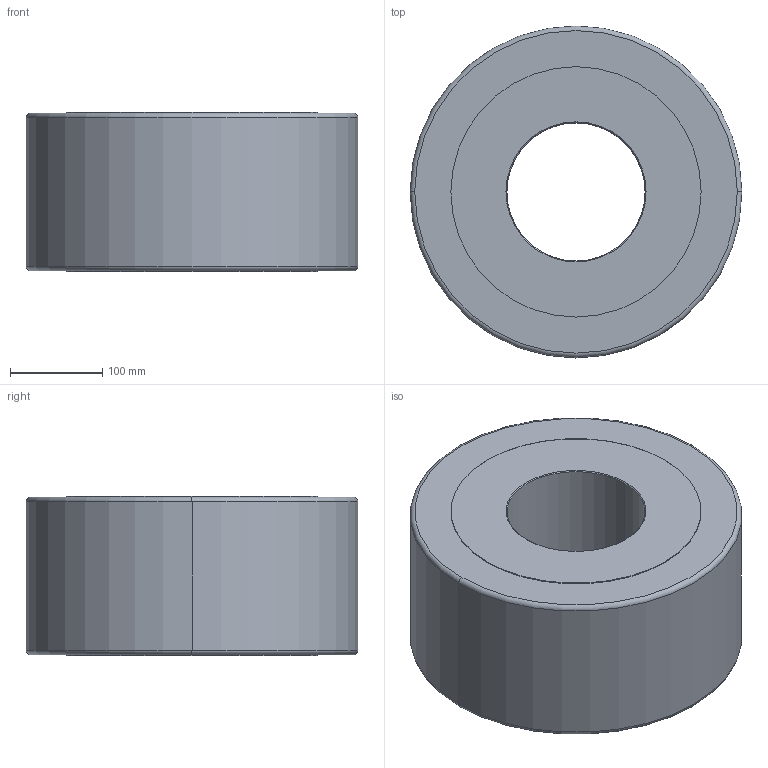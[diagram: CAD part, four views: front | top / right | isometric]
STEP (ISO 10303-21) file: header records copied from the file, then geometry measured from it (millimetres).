
FILE_DESCRIPTION (( 'STEP AP214' ), '1' );
FILE_NAME ('3DRSU150-360.STEP', '2013-12-19T09:51:29', ( 'usuario' ), ( 'Hewlett-Packard Company' ), 'SwSTEP 2.0', 'SolidWorks 2017', '' );
FILE_SCHEMA (( 'AUTOMOTIVE_DESIGN' ));
Length unit declared in the file: millimetre
Products named in the file (1): 3DRSU150-360
Bounding box: 360 x 360 x 173 mm (x, y, z)
Volume: 14451911.4 mm3; surface area: 439434.1 mm2
Topology: 1 solids, 1 shells, 20 faces, 40 edges, 24 vertices
Faces by surface type: cylinder 8, cone 4, torus 4, plane 4
Entity records: 566 total; most frequent: DIRECTION 110, CARTESIAN_POINT 85, ORIENTED_EDGE 80, AXIS2_PLACEMENT_3D 49, EDGE_CURVE 40, CIRCLE 28, VERTEX_POINT 24, EDGE_LOOP 24
